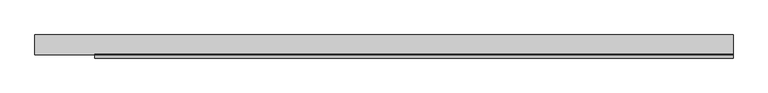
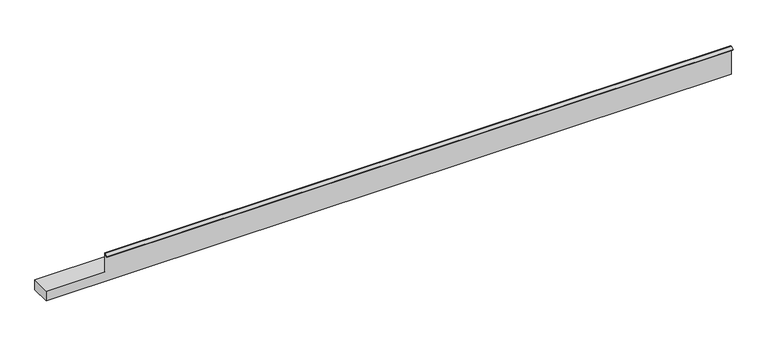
"""IFC4 building model written with IfcOpenShell, lengths in millimetres: proxy geometry, FOUNDATION^WORKSURFACES_OPEN OFFICE 2-70 LT."""

from ifc_helpers import new_model, si_unit, origin, place, context, project, spatial, faceted_brep, source, transform, mapped, element, save


def generic_models_c527dd61(model_context):
    return source(origin(), model_context, "Body", "Brep", [
        faceted_brep([(0.0, 50.8, -25.4), (0.0, 0.0, -25.4), (0.0, 0.0, 1.51892), (0.0, 50.8, 1.51892), (1778.0, 0.0, 49.6880734), (1778.0, 0.0, -25.4), (1778.0, 50.8, -25.4), (1778.0, 50.8, 1.51892), (1778.0, 1.51892, 1.51892), (1778.0, 1.51892, 52.31892), (1778.0, 0.0, 52.31892), (1778.0, 0.0, 51.4419711), (1778.0, -8.00608, 46.8196587), (1778.0, -7.24662, 45.5042354), (152.4, 0.0, 1.51892), (152.4, 1.51892, 1.51892), (152.4, -7.24662, 45.5042354), (152.4, 0.0, 49.6880734), (152.4, 0.0, 51.4419711), (152.4, -8.00608, 46.8196587), (152.4, 0.0, 52.31892), (152.4, 1.51892, 52.31892)], [[[0, 1, 2, 3]], [[4, 5, 6, 7, 8, 9, 10, 11, 12, 13]], [[1, 0, 6, 5]], [[14, 15, 8, 7, 3, 2]], [[16, 17, 4, 13]], [[18, 19, 12, 11]], [[19, 16, 13, 12]], [[1, 5, 4, 17, 14, 2]], [[18, 11, 10, 20]], [[8, 15, 21, 9]], [[15, 14, 17, 16, 19, 18, 20, 21]], [[21, 20, 10, 9]], [[0, 3, 7, 6]]]),
    ])


if __name__ == "__main__":
    model = new_model("IFC4")
    model_context = context("Model", 3, world=origin())
    ifc_project = project(units=[si_unit("LENGTHUNIT", "METRE", prefix="MILLI")], contexts=[model_context])
    site = spatial("IfcSite", under=ifc_project)
    building = spatial("IfcBuilding", under=site)
    placement = place(None, origin())
    generic_models_shape = generic_models_c527dd61(model_context)
    element("IfcBuildingElementProxy", 1, Name="FOUNDATION^WORKSURFACES_OPEN OFFICE 2-70 LT", ObjectType="FOUNDATION^WORKSURFACES_OPEN OFFICE 2-70 LT", at=placement, inside=building, context=model_context, shape_type="MappedRepresentation", body=[
        mapped(generic_models_shape, transform((0.0, 0.0, 0.0), x_axis=(1.0, 0.0, 0.0), y_axis=(0.0, 1.0, 0.0), z_axis=(0.0, 0.0, 1.0))),
    ])
    save(model, "model.ifc")
